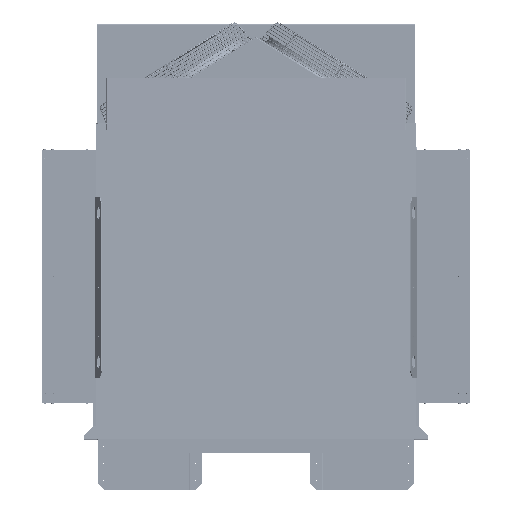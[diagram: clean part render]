
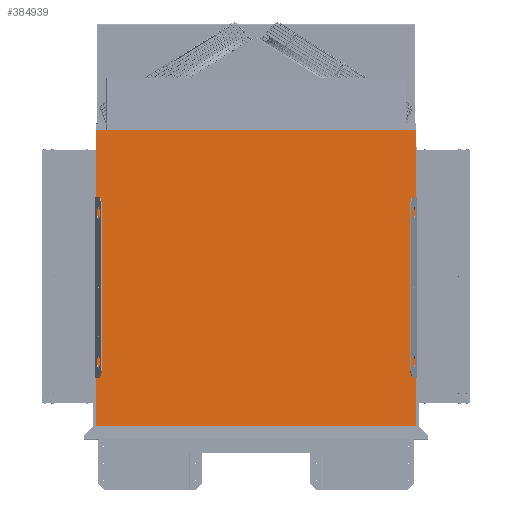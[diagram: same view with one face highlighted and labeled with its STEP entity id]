
A CAD part, top view. The second image highlights one B-rep face of the part: STEP entity #384939.
In plain terms, the highlighted planar face has unit normal (0, 0.044, 0.999) as drawn and (0, 0, 1) by its records, which use the part's own axes.
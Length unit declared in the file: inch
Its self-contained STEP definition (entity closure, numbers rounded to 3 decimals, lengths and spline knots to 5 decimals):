
#5947 = ORIENTED_EDGE ( 'NONE', *, *, #197753, .F. ) ;
#10196 = VERTEX_POINT ( 'NONE', #525305 ) ;
#10486 = CIRCLE ( 'NONE', #409683, 0.0745 ) ;
#12082 = VECTOR ( 'NONE', #287864, 39.37008 ) ;
#15849 = EDGE_LOOP ( 'NONE', ( #347745, #181904 ) ) ;
#20232 = DIRECTION ( 'NONE',  ( 0., 0., 1. ) ) ;
#32082 = EDGE_CURVE ( 'NONE', #464598, #632930, #613968, .T. ) ;
#35071 = CARTESIAN_POINT ( 'NONE',  ( 48.3, 0.99488, 0.06 ) ) ;
#44308 = DIRECTION ( 'NONE',  ( 0., 1., 0. ) ) ;
#47416 = LINE ( 'NONE', #332904, #608685 ) ;
#57630 = DIRECTION ( 'NONE',  ( 0., 0., 1. ) ) ;
#60375 = CARTESIAN_POINT ( 'NONE',  ( 0.188, 0.125, 0.06 ) ) ;
#65839 = EDGE_LOOP ( 'NONE', ( #336394, #5947 ) ) ;
#72181 = DIRECTION ( 'NONE',  ( -1., 0., 0. ) ) ;
#76181 = EDGE_CURVE ( 'NONE', #616522, #110602, #10486, .T. ) ;
#76236 = CARTESIAN_POINT ( 'NONE',  ( 32.81217, 0.99488, 0.06 ) ) ;
#85173 = DIRECTION ( 'NONE',  ( 0., 0., 1. ) ) ;
#86654 = CARTESIAN_POINT ( 'NONE',  ( 2.06, 0.99488, 0.06 ) ) ;
#88598 = CARTESIAN_POINT ( 'NONE',  ( 0., 0.125, 0.06 ) ) ;
#92355 = CARTESIAN_POINT ( 'NONE',  ( 0.188, 0.01567, 0.06 ) ) ;
#110602 = VERTEX_POINT ( 'NONE', #472362 ) ;
#114586 = VERTEX_POINT ( 'NONE', #224426 ) ;
#117126 = CARTESIAN_POINT ( 'NONE',  ( 1.9855, 0.99488, 0.06 ) ) ;
#119126 = CARTESIAN_POINT ( 'NONE',  ( 32.88667, 0.99488, 0.06 ) ) ;
#120389 = CARTESIAN_POINT ( 'NONE',  ( 50.345, 48.76564, 0.06 ) ) ;
#121221 = ORIENTED_EDGE ( 'NONE', *, *, #631867, .F. ) ;
#127068 = FACE_BOUND ( 'NONE', #15849, .T. ) ;
#127343 = DIRECTION ( 'NONE',  ( 1., 0., 0. ) ) ;
#131028 = AXIS2_PLACEMENT_3D ( 'NONE', #35071, #477458, #416773 ) ;
#133141 = CARTESIAN_POINT ( 'NONE',  ( 32.96117, 0.99488, 0.06 ) ) ;
#133369 = PLANE ( 'NONE',  #315354 ) ;
#134756 = CARTESIAN_POINT ( 'NONE',  ( 0., 0.125, 0.06 ) ) ;
#152498 = ORIENTED_EDGE ( 'NONE', *, *, #166398, .F. ) ;
#160588 = CARTESIAN_POINT ( 'NONE',  ( 17.54783, 0.99488, 0.06 ) ) ;
#162287 = ORIENTED_EDGE ( 'NONE', *, *, #519792, .T. ) ;
#166398 = EDGE_CURVE ( 'NONE', #110602, #616522, #511752, .T. ) ;
#170145 = EDGE_CURVE ( 'NONE', #501870, #412668, #226006, .T. ) ;
#179809 = DIRECTION ( 'NONE',  ( 0., 0., 1. ) ) ;
#180521 = CARTESIAN_POINT ( 'NONE',  ( 50.345, 0.125, 0.06 ) ) ;
#180898 = EDGE_CURVE ( 'NONE', #10196, #241094, #371904, .T. ) ;
#181904 = ORIENTED_EDGE ( 'NONE', *, *, #592016, .F. ) ;
#191172 = ORIENTED_EDGE ( 'NONE', *, *, #76181, .F. ) ;
#191585 = VECTOR ( 'NONE', #72181, 39.37008 ) ;
#197753 = EDGE_CURVE ( 'NONE', #632930, #464598, #220340, .T. ) ;
#208262 = CARTESIAN_POINT ( 'NONE',  ( 17.39883, 0.99488, 0.06 ) ) ;
#208321 = CARTESIAN_POINT ( 'NONE',  ( 2.06, 0.99488, 0.06 ) ) ;
#209361 = AXIS2_PLACEMENT_3D ( 'NONE', #482786, #284011, #242217 ) ;
#214945 = ORIENTED_EDGE ( 'NONE', *, *, #321341, .T. ) ;
#217339 = CARTESIAN_POINT ( 'NONE',  ( 50.172, 0.01567, 0.06 ) ) ;
#220194 = CARTESIAN_POINT ( 'NONE',  ( 17.47333, 0.99488, 0.06 ) ) ;
#220340 = CIRCLE ( 'NONE', #455589, 0.0745 ) ;
#220769 = ORIENTED_EDGE ( 'NONE', *, *, #365241, .T. ) ;
#224383 = CARTESIAN_POINT ( 'NONE',  ( 0.015, 48.78, 0.06 ) ) ;
#224426 = CARTESIAN_POINT ( 'NONE',  ( 50.345, 48.76564, 0.06 ) ) ;
#226006 = CIRCLE ( 'NONE', #584328, 0.0745 ) ;
#232266 = LINE ( 'NONE', #120389, #191585 ) ;
#241094 = VERTEX_POINT ( 'NONE', #60375 ) ;
#242217 = DIRECTION ( 'NONE',  ( 1., 0., 0. ) ) ;
#243307 = ORIENTED_EDGE ( 'NONE', *, *, #613939, .T. ) ;
#260021 = VERTEX_POINT ( 'NONE', #444051 ) ;
#260594 = CIRCLE ( 'NONE', #281236, 0.0745 ) ;
#263269 = DIRECTION ( 'NONE',  ( 1., 0., 0. ) ) ;
#266115 = DIRECTION ( 'NONE',  ( 0., -1., 0. ) ) ;
#281236 = AXIS2_PLACEMENT_3D ( 'NONE', #554292, #605489, #509436 ) ;
#284011 = DIRECTION ( 'NONE',  ( 0., 0., 1. ) ) ;
#284157 = ORIENTED_EDGE ( 'NONE', *, *, #607740, .T. ) ;
#284898 = AXIS2_PLACEMENT_3D ( 'NONE', #208321, #57630, #602563 ) ;
#287864 = DIRECTION ( 'NONE',  ( 1., 0., 0. ) ) ;
#288255 = DIRECTION ( 'NONE',  ( 0., 1., 0. ) ) ;
#291370 = LINE ( 'NONE', #429481, #355844 ) ;
#300778 = EDGE_CURVE ( 'NONE', #395754, #617369, #596449, .T. ) ;
#303716 = VERTEX_POINT ( 'NONE', #217339 ) ;
#309112 = VECTOR ( 'NONE', #127343, 39.37008 ) ;
#310212 = ORIENTED_EDGE ( 'NONE', *, *, #300778, .F. ) ;
#315354 = AXIS2_PLACEMENT_3D ( 'NONE', #524557, #85173, #476274 ) ;
#321341 = EDGE_CURVE ( 'NONE', #303716, #577933, #47416, .T. ) ;
#322469 = FACE_BOUND ( 'NONE', #353455, .T. ) ;
#332904 = CARTESIAN_POINT ( 'NONE',  ( 50.172, 0., 0.06 ) ) ;
#336394 = ORIENTED_EDGE ( 'NONE', *, *, #32082, .F. ) ;
#345276 = CARTESIAN_POINT ( 'NONE',  ( 0.188, 0., 0.06 ) ) ;
#347745 = ORIENTED_EDGE ( 'NONE', *, *, #170145, .F. ) ;
#353455 = EDGE_LOOP ( 'NONE', ( #310212, #121221 ) ) ;
#355844 = VECTOR ( 'NONE', #288255, 39.37008 ) ;
#364967 = EDGE_CURVE ( 'NONE', #627415, #10196, #621807, .T. ) ;
#365241 = EDGE_CURVE ( 'NONE', #571015, #114586, #291370, .T. ) ;
#370511 = FACE_BOUND ( 'NONE', #65839, .T. ) ;
#370539 = VECTOR ( 'NONE', #537856, 39.37008 ) ;
#371168 = AXIS2_PLACEMENT_3D ( 'NONE', #119126, #179809, #263269 ) ;
#371904 = LINE ( 'NONE', #134756, #531704 ) ;
#378280 = DIRECTION ( 'NONE',  ( 1., 0., 0. ) ) ;
#381500 = CARTESIAN_POINT ( 'NONE',  ( 48.3, 0.99488, 0.06 ) ) ;
#384939 = ADVANCED_FACE ( 'NONE', ( #370511, #127068, #322469, #473176, #425082 ), #133369, .T. ) ;
#395663 = EDGE_LOOP ( 'NONE', ( #526762, #481863, #284157, #162287, #214945, #562428, #220769, #243307 ) ) ;
#395754 = VERTEX_POINT ( 'NONE', #133141 ) ;
#401567 = CARTESIAN_POINT ( 'NONE',  ( 48.3745, 0.99488, 0.06 ) ) ;
#409683 = AXIS2_PLACEMENT_3D ( 'NONE', #381500, #20232, #507707 ) ;
#412668 = VERTEX_POINT ( 'NONE', #208262 ) ;
#416773 = DIRECTION ( 'NONE',  ( 1., 0., 0. ) ) ;
#420277 = DIRECTION ( 'NONE',  ( 0., 0., 1. ) ) ;
#425082 = FACE_OUTER_BOUND ( 'NONE', #395663, .T. ) ;
#429481 = CARTESIAN_POINT ( 'NONE',  ( 50.345, 0.125, 0.06 ) ) ;
#444051 = CARTESIAN_POINT ( 'NONE',  ( 0.188, 0.01567, 0.06 ) ) ;
#455589 = AXIS2_PLACEMENT_3D ( 'NONE', #86654, #420277, #474653 ) ;
#464598 = VERTEX_POINT ( 'NONE', #546135 ) ;
#472362 = CARTESIAN_POINT ( 'NONE',  ( 48.2255, 0.99488, 0.06 ) ) ;
#473176 = FACE_BOUND ( 'NONE', #582519, .T. ) ;
#474653 = DIRECTION ( 'NONE',  ( 1., 0., 0. ) ) ;
#476274 = DIRECTION ( 'NONE',  ( 1., 0., 0. ) ) ;
#477458 = DIRECTION ( 'NONE',  ( 0., 0., 1. ) ) ;
#481863 = ORIENTED_EDGE ( 'NONE', *, *, #180898, .T. ) ;
#482786 = CARTESIAN_POINT ( 'NONE',  ( 17.47333, 0.99488, 0.06 ) ) ;
#489666 = LINE ( 'NONE', #345276, #370539 ) ;
#501870 = VERTEX_POINT ( 'NONE', #160588 ) ;
#507707 = DIRECTION ( 'NONE',  ( 1., 0., 0. ) ) ;
#509436 = DIRECTION ( 'NONE',  ( 1., 0., 0. ) ) ;
#511752 = CIRCLE ( 'NONE', #131028, 0.0745 ) ;
#519370 = EDGE_CURVE ( 'NONE', #577933, #571015, #527929, .T. ) ;
#519792 = EDGE_CURVE ( 'NONE', #260021, #303716, #531707, .T. ) ;
#519918 = VECTOR ( 'NONE', #266115, 39.37008 ) ;
#524557 = CARTESIAN_POINT ( 'NONE',  ( 0., 0., 0.06 ) ) ;
#525305 = CARTESIAN_POINT ( 'NONE',  ( 0.015, 0.125, 0.06 ) ) ;
#526762 = ORIENTED_EDGE ( 'NONE', *, *, #364967, .T. ) ;
#527929 = LINE ( 'NONE', #88598, #309112 ) ;
#531704 = VECTOR ( 'NONE', #378280, 39.37008 ) ;
#531707 = LINE ( 'NONE', #92355, #12082 ) ;
#537856 = DIRECTION ( 'NONE',  ( 0., -1., 0. ) ) ;
#546135 = CARTESIAN_POINT ( 'NONE',  ( 2.1345, 0.99488, 0.06 ) ) ;
#552023 = CARTESIAN_POINT ( 'NONE',  ( 50.172, 0.125, 0.06 ) ) ;
#554292 = CARTESIAN_POINT ( 'NONE',  ( 32.88667, 0.99488, 0.06 ) ) ;
#562428 = ORIENTED_EDGE ( 'NONE', *, *, #519370, .T. ) ;
#563270 = DIRECTION ( 'NONE',  ( 1., 0., 0. ) ) ;
#568852 = CARTESIAN_POINT ( 'NONE',  ( 0.015, 48.76564, 0.06 ) ) ;
#571015 = VERTEX_POINT ( 'NONE', #180521 ) ;
#577933 = VERTEX_POINT ( 'NONE', #552023 ) ;
#582519 = EDGE_LOOP ( 'NONE', ( #191172, #152498 ) ) ;
#584328 = AXIS2_PLACEMENT_3D ( 'NONE', #220194, #611297, #563270 ) ;
#592016 = EDGE_CURVE ( 'NONE', #412668, #501870, #618940, .T. ) ;
#596449 = CIRCLE ( 'NONE', #371168, 0.0745 ) ;
#602563 = DIRECTION ( 'NONE',  ( 1., 0., 0. ) ) ;
#605489 = DIRECTION ( 'NONE',  ( 0., 0., 1. ) ) ;
#607740 = EDGE_CURVE ( 'NONE', #241094, #260021, #489666, .T. ) ;
#608685 = VECTOR ( 'NONE', #44308, 39.37008 ) ;
#611297 = DIRECTION ( 'NONE',  ( 0., 0., 1. ) ) ;
#613939 = EDGE_CURVE ( 'NONE', #114586, #627415, #232266, .T. ) ;
#613968 = CIRCLE ( 'NONE', #284898, 0.0745 ) ;
#616522 = VERTEX_POINT ( 'NONE', #401567 ) ;
#617369 = VERTEX_POINT ( 'NONE', #76236 ) ;
#618940 = CIRCLE ( 'NONE', #209361, 0.0745 ) ;
#621807 = LINE ( 'NONE', #224383, #519918 ) ;
#627415 = VERTEX_POINT ( 'NONE', #568852 ) ;
#631867 = EDGE_CURVE ( 'NONE', #617369, #395754, #260594, .T. ) ;
#632930 = VERTEX_POINT ( 'NONE', #117126 ) ;
